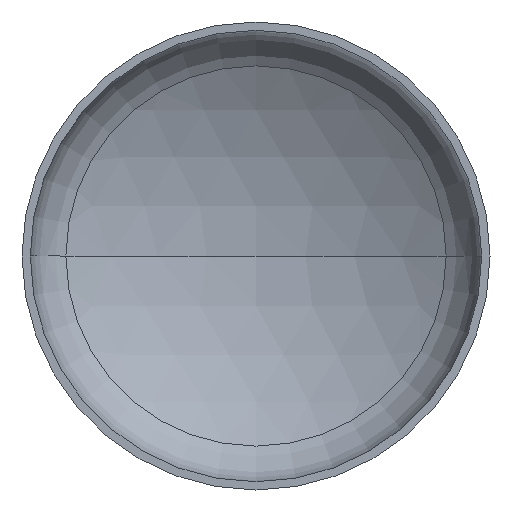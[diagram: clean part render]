
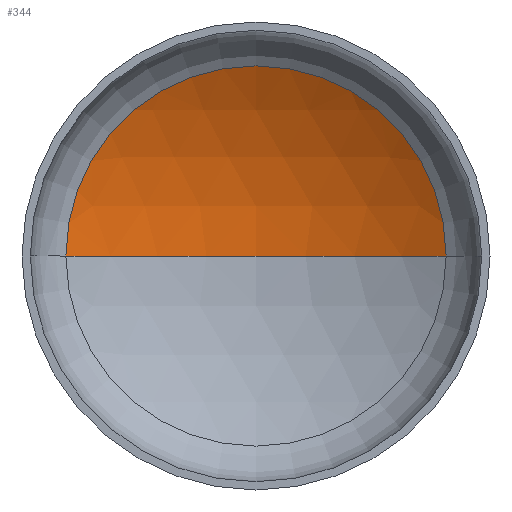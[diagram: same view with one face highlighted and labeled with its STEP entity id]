
A CAD part, front view. The second image highlights one B-rep face of the part: STEP entity #344.
In plain terms, the highlighted spherical face has radius 3600 mm.
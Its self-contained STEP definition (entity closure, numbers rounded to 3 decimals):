
#1 = AXIS2_PLACEMENT_3D ( 'NONE', #378, #383, #228 ) ;
#5 = AXIS2_PLACEMENT_3D ( 'NONE', #149, #373, #160 ) ;
#9 = AXIS2_PLACEMENT_3D ( 'NONE', #242, #372, #269 ) ;
#24 = ORIENTED_EDGE ( 'NONE', *, *, #364, .T. ) ;
#36 = VERTEX_POINT ( 'NONE', #349 ) ;
#48 = ORIENTED_EDGE ( 'NONE', *, *, #360, .T. ) ;
#100 = SPHERICAL_SURFACE ( 'NONE', #5, 3600. ) ;
#117 = VERTEX_POINT ( 'NONE', #282 ) ;
#137 = ORIENTED_EDGE ( 'NONE', *, *, #341, .F. ) ;
#141 = CARTESIAN_POINT ( 'NONE',  ( 0., 718.748, 0. ) ) ;
#148 = VERTEX_POINT ( 'NONE', #289 ) ;
#149 = CARTESIAN_POINT ( 'NONE',  ( 0., -2382.679, 0. ) ) ;
#160 = DIRECTION ( 'NONE',  ( -1., 0., 0. ) ) ;
#176 = CIRCLE ( 'NONE', #1, 3600. ) ;
#228 = DIRECTION ( 'NONE',  ( -1., 0., 0. ) ) ;
#242 = CARTESIAN_POINT ( 'NONE',  ( 0., -2382.679, 0. ) ) ;
#245 = CIRCLE ( 'NONE', #9, 3600. ) ;
#255 = AXIS2_PLACEMENT_3D ( 'NONE', #141, #329, #332 ) ;
#269 = DIRECTION ( 'NONE',  ( 1., 0., 0. ) ) ;
#282 = CARTESIAN_POINT ( 'NONE',  ( -1827.883, 718.748, 0. ) ) ;
#289 = CARTESIAN_POINT ( 'NONE',  ( 0., 1217.321, 0. ) ) ;
#317 = FACE_OUTER_BOUND ( 'NONE', #406, .T. ) ;
#329 = DIRECTION ( 'NONE',  ( 0., -1., 0. ) ) ;
#332 = DIRECTION ( 'NONE',  ( 1., 0., 0. ) ) ;
#341 = EDGE_CURVE ( 'NONE', #148, #117, #245, .T. ) ;
#344 = ADVANCED_FACE ( 'NONE', ( #317 ), #100, .F. ) ;
#349 = CARTESIAN_POINT ( 'NONE',  ( 1827.883, 718.748, 0. ) ) ;
#360 = EDGE_CURVE ( 'NONE', #148, #36, #176, .T. ) ;
#364 = EDGE_CURVE ( 'NONE', #36, #117, #375, .T. ) ;
#372 = DIRECTION ( 'NONE',  ( 0., 0., 1. ) ) ;
#373 = DIRECTION ( 'NONE',  ( 0., 0., -1. ) ) ;
#375 = CIRCLE ( 'NONE', #255, 1827.883 ) ;
#378 = CARTESIAN_POINT ( 'NONE',  ( 0., -2382.679, 0. ) ) ;
#383 = DIRECTION ( 'NONE',  ( 0., 0., -1. ) ) ;
#406 = EDGE_LOOP ( 'NONE', ( #137, #48, #24 ) ) ;
